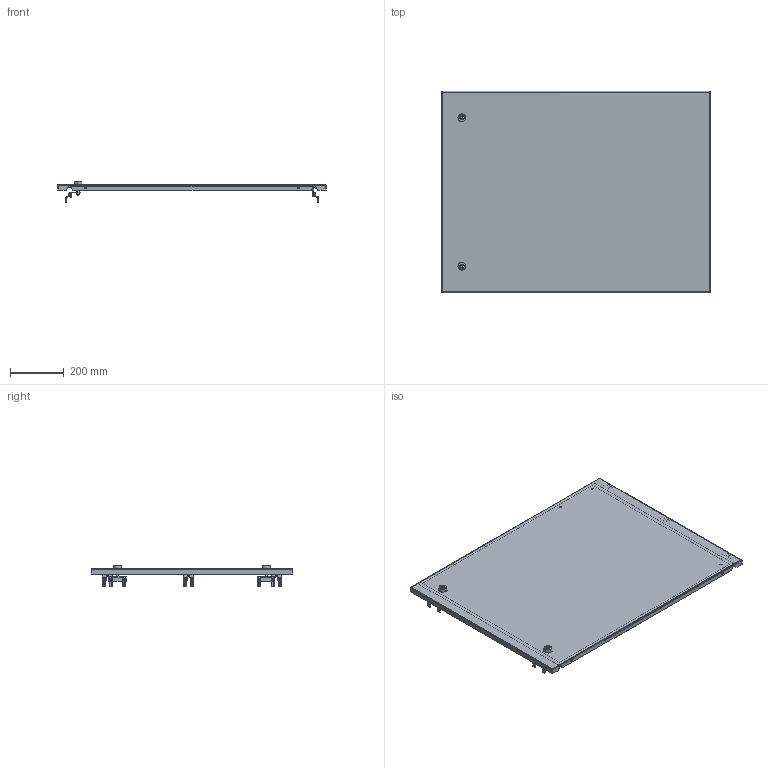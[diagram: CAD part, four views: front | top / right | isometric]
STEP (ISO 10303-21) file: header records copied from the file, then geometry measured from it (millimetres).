
FILE_DESCRIPTION(('CAx-IF Rec.Pracs.---Model Styling and Organization---1.2---2011-12-15','CAx-IF Rec.Pracs.---Geometric and Assembly Validation Properties---4.1---2014-06-16','CAx-IF Rec.Pracs.---PMI Polyline Presentation---2.0---2013-05-24'),'2;1');
FILE_NAME('R5CPMEM10750.stp','2021-05-06T04:01:37+03:00',(''),(''),'STEP Interface 4.4 by CT CoreTechnologie','3D_Evolution4.4 by CT CoreTechnologie','');
FILE_SCHEMA(('AUTOMOTIVE_DESIGN { 1 0 10303 214 1 1 1 1 }'));
Length unit declared in the file: millimetre
Products named in the file (17): R5CPMEM10750; M6 x 16-DIN 7991 ISR_thread; AC00C485; AC00C745; RB.0687.00.00.1; RB.0556.00.00.3 ÑÁ_-39; AC00C061_AC00C061; AC00C266; RB.0556.00.01.1_-39; PF 7x14 R5PKEB_0750x1000; Ì6õ12-A5100231_thread; Ì6õ12-A5100231_straight; RB.0116.00.00.2_-00; MS737-1-1(1); MS737-1-1 Z_ ªàëâ; MS737-1-1 stop_fixed; MS737-1-1(2)
Assembly tree (46 placements, depth 3):
  R5CPMEM10750
    M6 x 16-DIN 7991 ISR_thread  x10
    AC00C485  x10
    AC00C745  x3
    RB.0687.00.00.1  x2
    RB.0556.00.00.3 ÑÁ_-39
      AC00C061_AC00C061  x3
      AC00C266  x3
      RB.0556.00.01.1_-39
      PF 7x14 R5PKEB_0750x1000
      Ì6õ12-A5100231_thread  x2
      Ì6õ12-A5100231_straight
    RB.0116.00.00.2_-00  x3
    MS737-1-1(1)
      MS737-1-1 Z_ ªàëâ
      MS737-1-1 stop_fixed
    MS737-1-1(2)
      MS737-1-1 stop_fixed
      MS737-1-1 Z_ ªàëâ
Bounding box: 994 x 745 x 77.95 mm (x, y, z)
Surface area: 1802005.6 mm2 (no closed solid volume)
Topology: 0 solids, 72 shells, 2704 faces, 7004 edges, 4420 vertices
Faces by surface type: bspline 969, cylinder 910, plane 825
Entity records: 35306 total; most frequent: CARTESIAN_POINT 11607, ORIENTED_EDGE 4946, DIRECTION 4608, EDGE_CURVE 2473, AXIS2_PLACEMENT_3D 1675, VERTEX_POINT 1598, VECTOR 1258, LINE 1258
